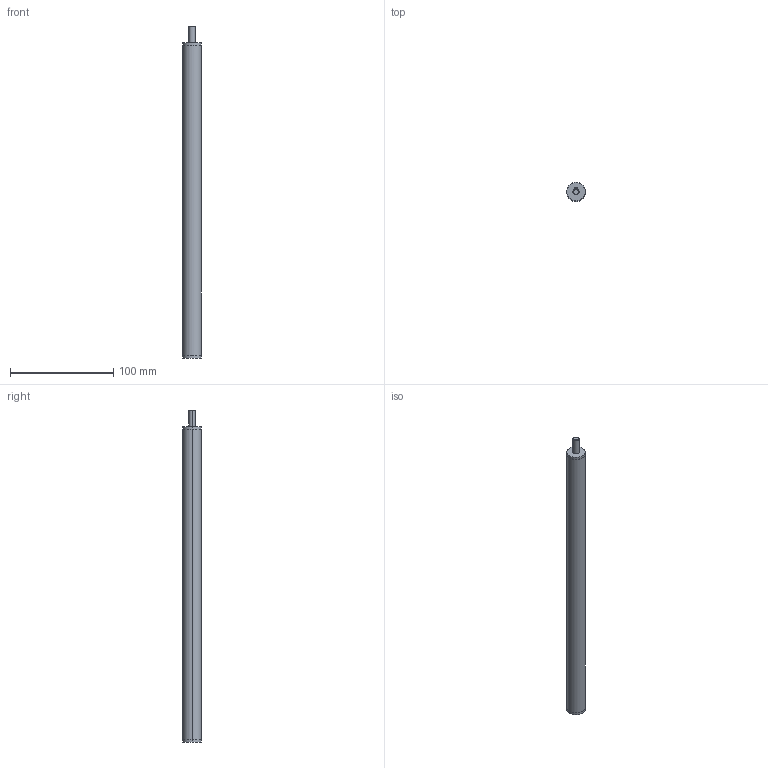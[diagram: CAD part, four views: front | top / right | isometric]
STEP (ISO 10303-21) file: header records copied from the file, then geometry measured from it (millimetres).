
FILE_DESCRIPTION (( 'STEP AP214' ), '1' );
FILE_NAME ('291-18-165-R1-SCR.step', '2023-08-30T05:19:46', ( '' ), ( '' ), 'SwSTEP 2.0', 'SolidWorks 2022', '' );
FILE_SCHEMA (( 'AUTOMOTIVE_DESIGN' ));
Length unit declared in the file: millimetre
Products named in the file (3): 291-18-165-R1-SCR; WB2910 Rund^WBVES_18-165-1; WB2910 mutter^WBVES_Tr10-M3
Assembly tree (2 placements, depth 2):
  291-18-165-R1-SCR
    WB2910 mutter^WBVES_Tr10-M3
    WB2910 Rund^WBVES_18-165-1
Bounding box: 18 x 18 x 321 mm (x, y, z)
Volume: 42473.7 mm3; surface area: 43786.5 mm2
Topology: 2 solids, 2 shells, 44 faces, 106 edges, 68 vertices
Faces by surface type: cylinder 25, plane 17, cone 2
Entity records: 1781 total; most frequent: CARTESIAN_POINT 458, DIRECTION 228, ORIENTED_EDGE 212, EDGE_CURVE 106, AXIS2_PLACEMENT_3D 88, VERTEX_POINT 68, EDGE_LOOP 54, LINE 52
